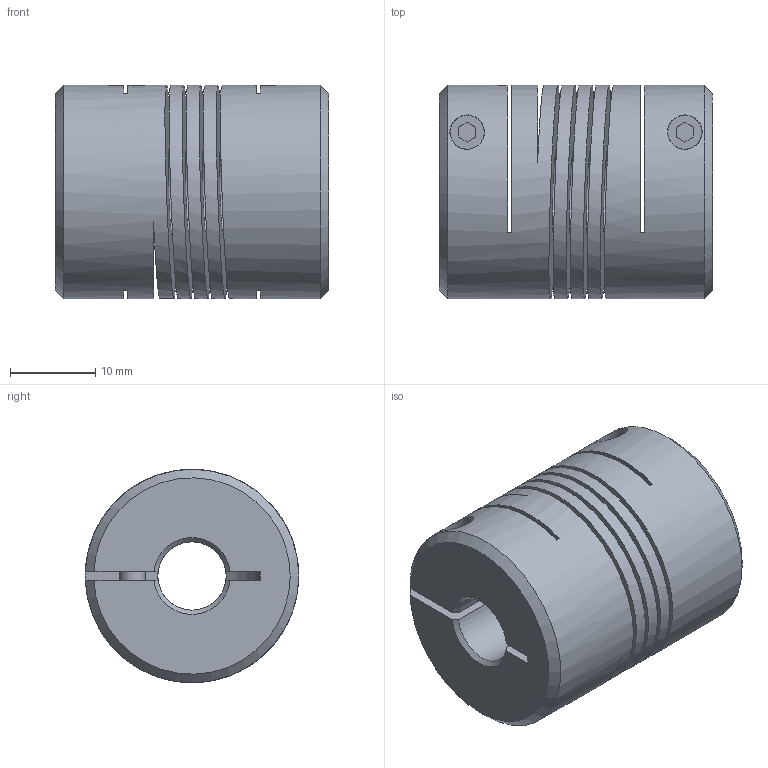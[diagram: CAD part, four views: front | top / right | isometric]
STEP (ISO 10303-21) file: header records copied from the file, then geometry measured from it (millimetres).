
FILE_DESCRIPTION(/* description */ ('STEP AP203'),/* implementation_level */ '2;1');
FILE_NAME(/* name */ 'P_MZ_Z_1775',/* time_stamp */ '2023-05-10T09:15:31+02:00',/* author */ ('License CC BY-ND 4.0'),/* organization */ ('CADENAS'),/* preprocessor_version */ 'ST-DEVELOPER v19.3',/* originating_system */ 'PARTsolutions',/* authorisation */ ' ');
FILE_SCHEMA (('CONFIG_CONTROL_DESIGN'));
Length unit declared in the file: millimetre
Products named in the file (3): P_MZ_Z_1775; P_MZ_Z_1717_P2; P_MZ_Z_1775_P1
Assembly tree (3 placements, depth 2):
  P_MZ_Z_1775
    P_MZ_Z_1717_P2  x2
    P_MZ_Z_1775_P1
Bounding box: 32 x 25 x 25 mm (x, y, z)
Volume: 11851.3 mm3; surface area: 9882.3 mm2
Topology: 3 solids, 3 shells, 84 faces, 229 edges, 152 vertices
Faces by surface type: plane 56, cylinder 20, cone 8
Full cylindrical faces by diameter (mm): 2.459 x2, 3 x4, 4 x2, 4.04 x2, 8 x1, 10 x6, 25 x1
Entity records: 2208 total; most frequent: CARTESIAN_POINT 442, DIRECTION 351, ORIENTED_EDGE 314, EDGE_CURVE 157, AXIS2_PLACEMENT_3D 137, EDGE_LOOP 119, FACE_BOUND 119, VERTEX_POINT 114
